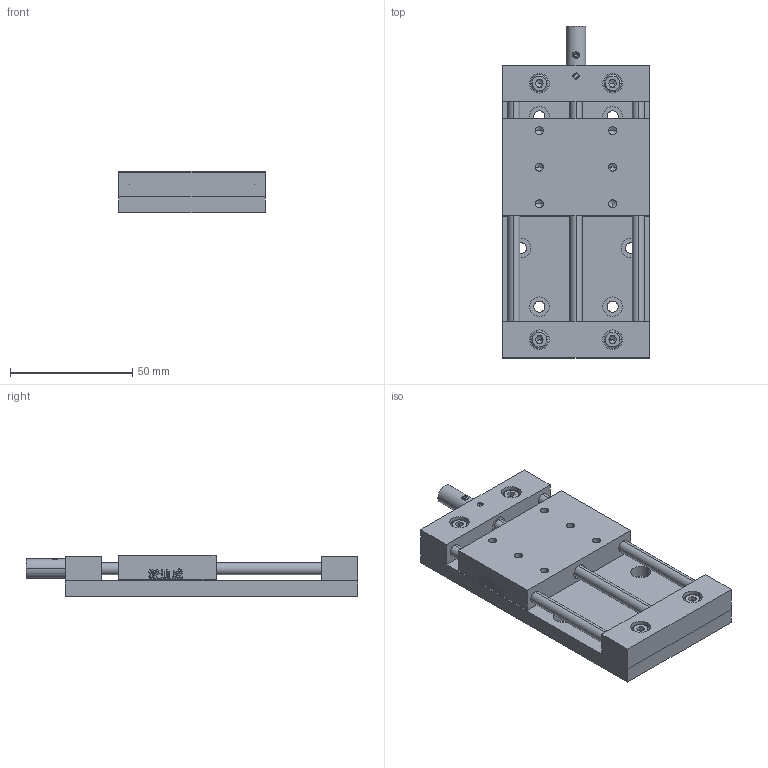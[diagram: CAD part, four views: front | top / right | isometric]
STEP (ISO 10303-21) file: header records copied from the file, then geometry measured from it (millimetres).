
FILE_DESCRIPTION (( 'STEP AP214' ), '1' );
FILE_NAME ('PT-SS50.STEP', '2022-08-27T03:23:44', ( '' ), ( '' ), 'SwSTEP 2.0', 'SolidWorks 2017', '' );
FILE_SCHEMA (( 'AUTOMOTIVE_DESIGN' ));
Length unit declared in the file: millimetre
Products named in the file (11): 旮僱⑩粣創683ZZ; 忒謫; PT-SS50; M5佪話; 菁啣; 賑輸_1; 嘐隅釱2; 内六角圆柱头螺钉M4X10_GB_FASTENER_SCREWS_HSHCS M4X12-N; 耳5嫖粣; 嘐隅釱1; 内六角平端紧定螺钉M3X3_GB_FASTENER_SCREWS_HSFP M3X5-N
Assembly tree (20 placements, depth 2):
  PT-SS50
    嘐隅釱1
    耳5嫖粣  x2
    M5佪話
    嘐隅釱2
    賑輸_1
    内六角平端紧定螺钉M3X3_GB_FASTENER_SCREWS_HSFP M3X5-N  x6
    忒謫
    菁啣
    旮僱⑩粣創683ZZ  x2
    内六角圆柱头螺钉M4X10_GB_FASTENER_SCREWS_HSHCS M4X12-N  x4
Bounding box: 60.4 x 136 x 17 mm (x, y, z)
Volume: 88903.3 mm3; surface area: 43692.5 mm2
Topology: 20 solids, 20 shells, 849 faces, 2144 edges, 1362 vertices
Faces by surface type: plane 433, cylinder 166, bspline 160, cone 90
Entity records: 26680 total; most frequent: CARTESIAN_POINT 11241, ORIENTED_EDGE 3296, DIRECTION 2646, EDGE_CURVE 1648, VERTEX_POINT 1084, LINE 1000, VECTOR 1000, AXIS2_PLACEMENT_3D 823
